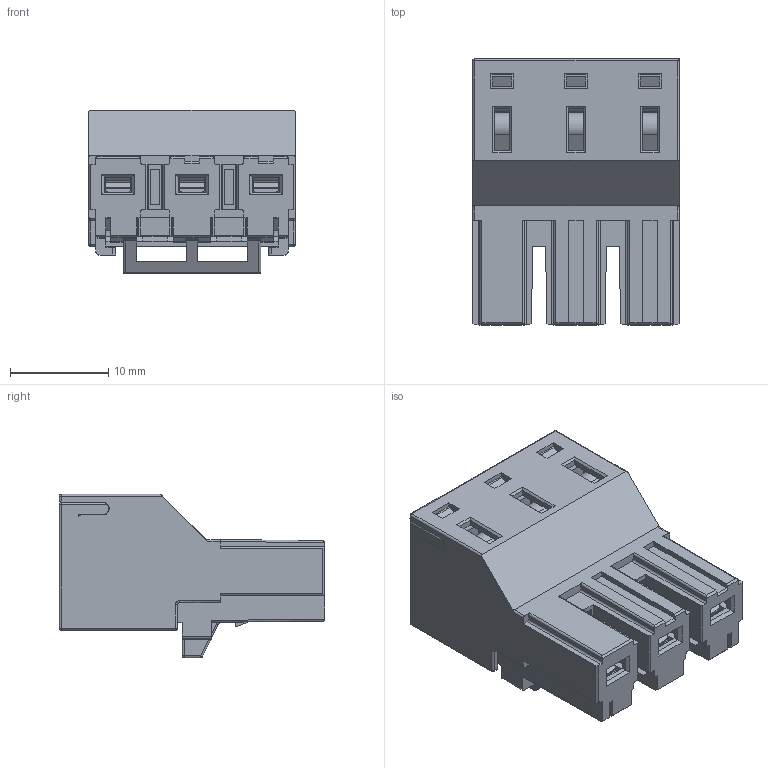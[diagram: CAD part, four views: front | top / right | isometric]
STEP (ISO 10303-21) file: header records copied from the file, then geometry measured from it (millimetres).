
FILE_DESCRIPTION((''),'2;1');
FILE_NAME('PLUG-HO-750_3P_ASM','2021-08-18T',('renkang.li'),(''),'CREO PARAMETRIC BY PTC INC, 2016260','CREO PARAMETRIC BY PTC INC, 2016260','');
FILE_SCHEMA(('CONFIG_CONTROL_DESIGN'));
Length unit declared in the file: millimetre
Products named in the file (1): PLUG-HO-750_3P_ASM
Bounding box: 21 x 27 x 16.6 mm (x, y, z)
Volume: 3172.1 mm3; surface area: 8748 mm2
Topology: 1 solids, 1 shells, 1196 faces, 3289 edges, 2091 vertices
Faces by surface type: plane 783, cylinder 332, torus 37, bspline 33, sphere 11
Entity records: 39944 total; most frequent: CARTESIAN_POINT 9310, ORIENTED_EDGE 6578, DIRECTION 6160, EDGE_CURVE 3289, VECTOR 2496, LINE 2496, VERTEX_POINT 2091, AXIS2_PLACEMENT_3D 1832
